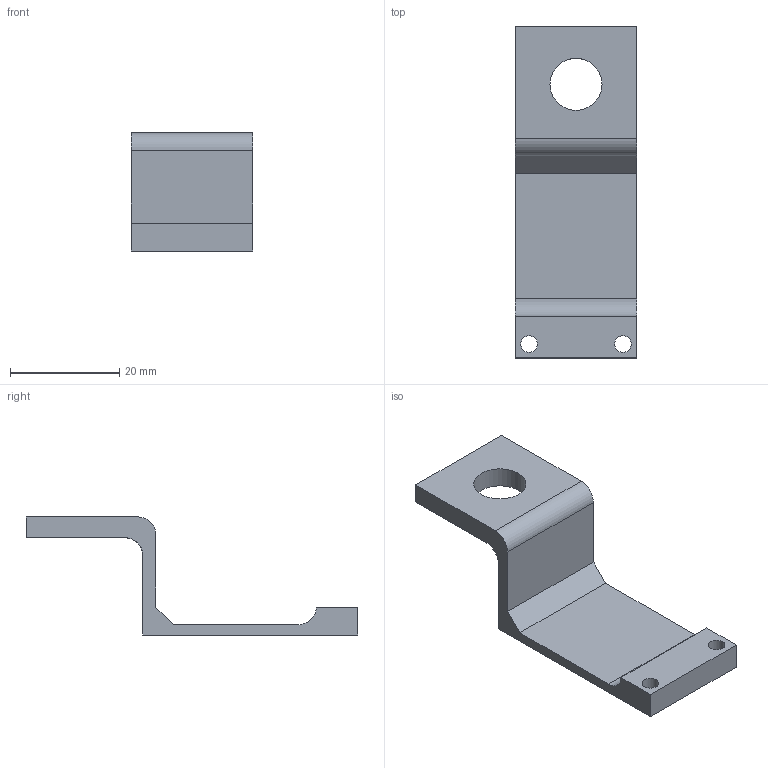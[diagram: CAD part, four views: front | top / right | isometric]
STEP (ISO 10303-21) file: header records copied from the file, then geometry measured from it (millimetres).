
FILE_DESCRIPTION((''),'2;1');
FILE_NAME('C:\Documents and Settings\Powderly\Desktop\EncoderMotorMount.stp','2005-08-09T02:07:33',('Powderly'),(''),'Autodesk Inventor 10','Autodesk Inventor 10','');
FILE_SCHEMA(('AUTOMOTIVE_DESIGN { 1 0 10303 214 1 1 1 1 }'));
Length unit declared in the file: inch
Products named in the file (1): EncoderMotorMount
Bounding box: 22.23 x 60.71 x 21.59 mm (x, y, z)
Volume: 4846.8 mm3; surface area: 4179.3 mm2
Topology: 1 solids, 1 shells, 20 faces, 53 edges, 35 vertices
Faces by surface type: plane 12, cylinder 8
Full cylindrical faces by diameter (mm): 3.048 x2, 9.525 x1
Entity records: 654 total; most frequent: CARTESIAN_POINT 120, DIRECTION 103, ORIENTED_EDGE 100, EDGE_CURVE 50, VERTEX_POINT 35, VECTOR 35, LINE 35, AXIS2_PLACEMENT_3D 34
